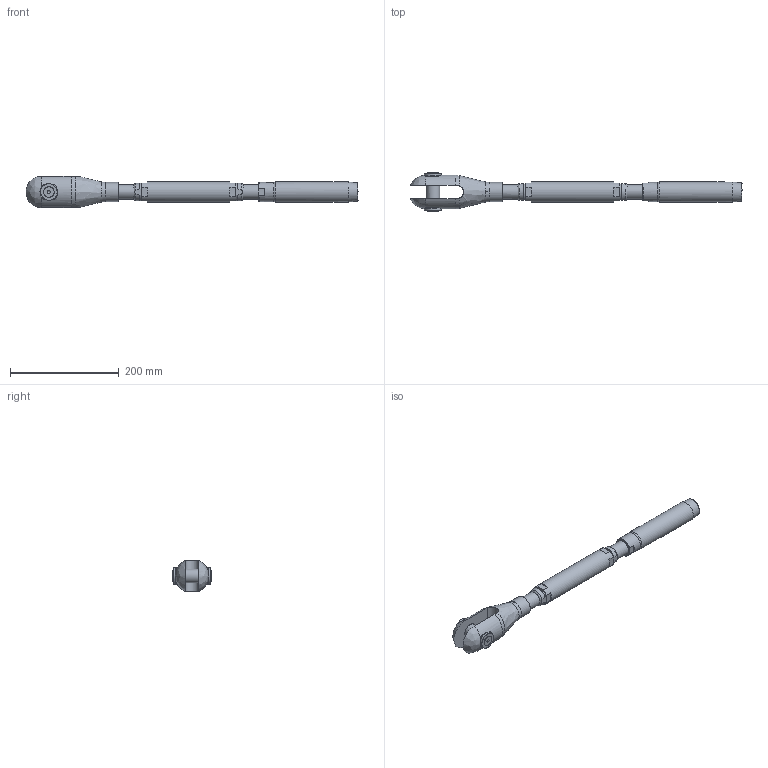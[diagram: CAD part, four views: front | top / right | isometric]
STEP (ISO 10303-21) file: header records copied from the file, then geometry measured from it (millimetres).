
FILE_DESCRIPTION(/* description */ (''),/* implementation_level */ '2;1');
FILE_NAME(/* name */ 'TBC 18_42CrMo4',/* time_stamp */ '2023-05-23T18:16:38+02:00',/* author */ (''),/* organization */ (''),/* preprocessor_version */ 'ST-DEVELOPER v16.5',/* originating_system */ 'Rhino 7.22',/* authorisation */ '');
FILE_SCHEMA (('CONFIG_CONTROL_DESIGN'));
Length unit declared in the file: millimetre
Products named in the file (1): Document
Bounding box: 609.57 x 69.91 x 57.17 mm (x, y, z)
Volume: 644487.7 mm3; surface area: 132413.6 mm2
Topology: 10 solids, 10 shells, 143 faces, 389 edges, 268 vertices
Faces by surface type: plane 65, bspline 43, cylinder 35
Full cylindrical faces by diameter (mm): 8.376 x2, 10 x2, 10.5 x2, 19.22 x2, 23.752 x4, 25 x1, 27 x4, 31 x3, 35 x2, 36.8 x1, 37 x1
Entity records: 6020 total; most frequent: CARTESIAN_POINT 3558, ORIENTED_EDGE 770, EDGE_CURVE 385, VERTEX_POINT 268, EDGE_LOOP 163, B_SPLINE_CURVE_WITH_KNOTS 160, ADVANCED_FACE 143, FACE_OUTER_BOUND 143
